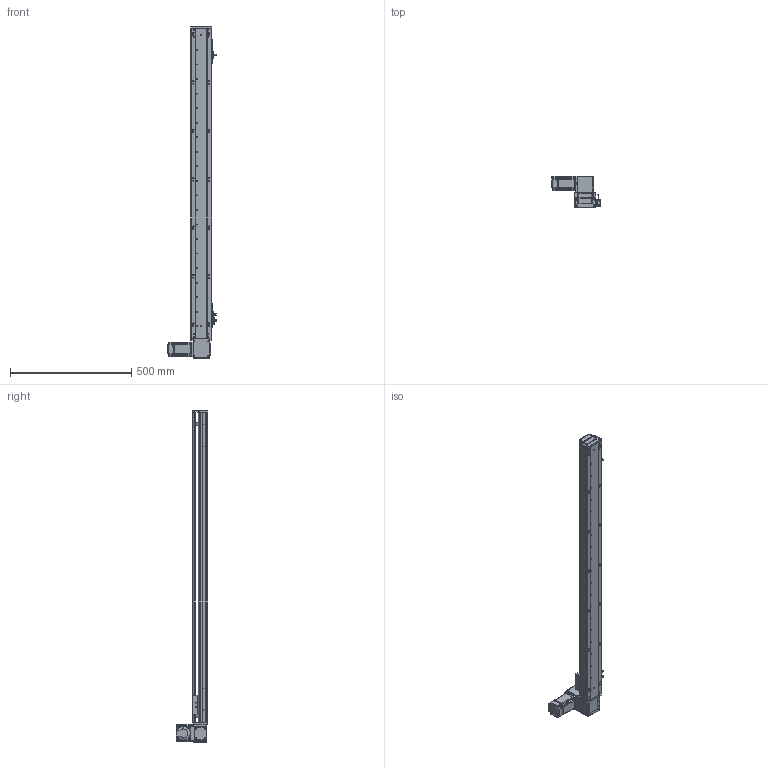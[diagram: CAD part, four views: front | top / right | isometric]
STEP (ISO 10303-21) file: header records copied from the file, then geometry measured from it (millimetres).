
FILE_DESCRIPTION (( 'STEP AP203' ), '1' );
FILE_NAME ('RY80-T-300-UL.SLDASM_1100.step', '2021-03-01T02:17:23', ( '盈信电脑' ), ( '东莞市道滘镇水果街19号' ), 'SwSTEP 2.0', 'SolidWorks 2012', '' );
FILE_SCHEMA (( 'CONFIG_CONTROL_DESIGN' ));
Length unit declared in the file: millimetre
Products named in the file (19): RY80-T-300-UL.SLDASM_1100; RY80-T-上下折同步轮盖板; RY80-T-M4蹟翐2; RY80-T肮祭謫奻殏俋欶; 1; RY80-T翋肮祭謫裔啣; 滅袉蝶18-10; RY80-T粣創揤踡輸; RY80-T萇儂假蚾啣; RY80-T肮祭湍揤輸2; RY80-T肮祭湍揤輸1; RY80-T-翋肮祭謫釱; 672嫖萇羲壽假蚾釱; RY80-T綴裔啣; RY80俋离覜茼え; 覜茼ん672; RY80-T肮祭謫臏賑輸; RY80-T-300-UL倰第菁釱_1100; RY80-T-300-UL倰第奻裔啣_1100
Assembly tree (24 placements, depth 2):
  RY80-T-300-UL.SLDASM_1100
    RY80-T-300-UL倰第菁釱_1100
    RY80-T肮祭謫臏賑輸
    RY80-T-300-UL倰第奻裔啣_1100
    RY80-T綴裔啣
    672嫖萇羲壽假蚾釱  x2
    覜茼ん672  x3
    RY80俋离覜茼え
    RY80-T-翋肮祭謫釱
    RY80-T肮祭湍揤輸1
    RY80-T肮祭湍揤輸2
    RY80-T萇儂假蚾啣
    RY80-T粣創揤踡輸  x2
    滅袉蝶18-10  x2
    RY80-T翋肮祭謫裔啣
    1
    RY80-T肮祭謫奻殏俋欶
    RY80-T-M4蹟翐2  x2
    RY80-T-上下折同步轮盖板
Bounding box: 198.7 x 130.5 x 1370 mm (x, y, z)
Volume: 2324607.1 mm3; surface area: 974512.8 mm2
Topology: 24 solids, 24 shells, 2514 faces, 6915 edges, 4491 vertices
Faces by surface type: plane 1348, cylinder 962, cone 148, bspline 56
Entity records: 78399 total; most frequent: CARTESIAN_POINT 18870, ORIENTED_EDGE 12214, DIRECTION 11508, EDGE_CURVE 6107, VERTEX_POINT 4012, AXIS2_PLACEMENT_3D 3870, VECTOR 3768, LINE 3768
